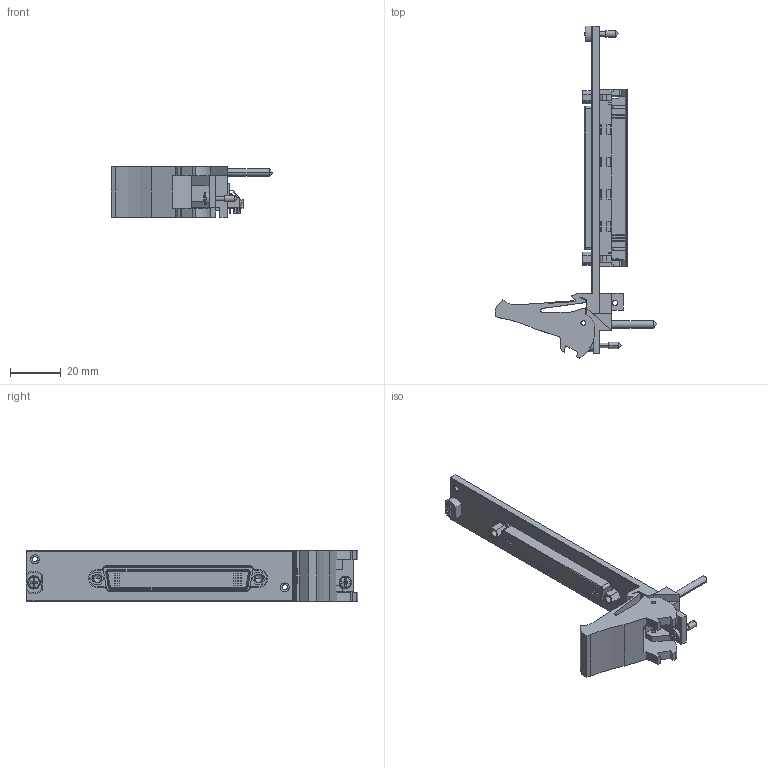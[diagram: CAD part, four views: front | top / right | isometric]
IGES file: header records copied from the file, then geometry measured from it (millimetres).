
Start section:  PTC IGES file: cu_pxi-2530b.igs
Global section: file name: cu_pxi-2530b.igs; native system: Pro/ENGINEER by Parametric Technology Corporation; preprocessor: 2010230; author: jjorden; organization: Unknown; date: 20110121.150510; units: inch
Bounding box: 63.53 x 130.5 x 20.02 mm (x, y, z)
Surface area: 15526.6 mm2 (no closed solid volume)
Topology: 0 solids, 0 shells, 915 faces, 4920 edges, 4912 vertices
Faces by surface type: bspline 752, revolution 163
